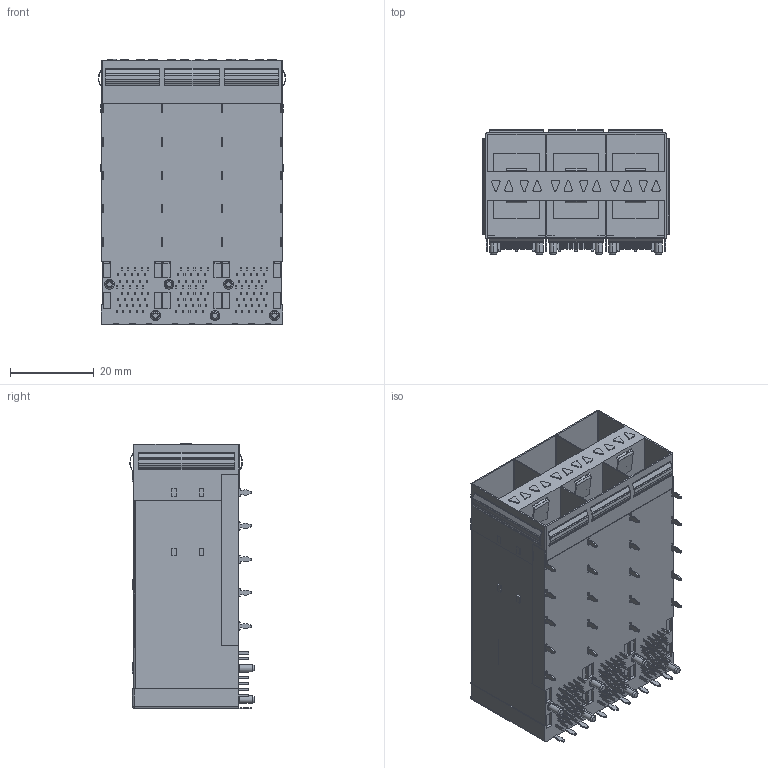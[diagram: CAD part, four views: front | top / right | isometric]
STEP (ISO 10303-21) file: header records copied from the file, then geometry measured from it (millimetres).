
FILE_DESCRIPTION (( 'STEP AP203' ), '1' );
FILE_NAME ('22301_SFP+ 2X3 囀俋絳嫖翐.STEP', '2024-06-05T00:28:43', ( '' ), ( '' ), 'SwSTEP 2.0', 'SolidWorks 2018', '' );
FILE_SCHEMA (( 'CONFIG_CONTROL_DESIGN' ));
Products named in the file (1): 22301_SFP+ 2X3 囀俋絳嫖翐
Bounding box: 44.81 x 29.78 x 63.5 mm (x, y, z)
Volume: 35373.3 mm3; surface area: 26887.2 mm2
Topology: 1 solids, 1 shells, 1738 faces, 4830 edges, 3278 vertices
Faces by surface type: plane 1264, cylinder 448, cone 24, sphere 2
Entity records: 55685 total; most frequent: CARTESIAN_POINT 9845, ORIENTED_EDGE 9656, DIRECTION 9230, EDGE_CURVE 4828, VECTOR 3904, LINE 3904, VERTEX_POINT 3278, AXIS2_PLACEMENT_3D 2663
